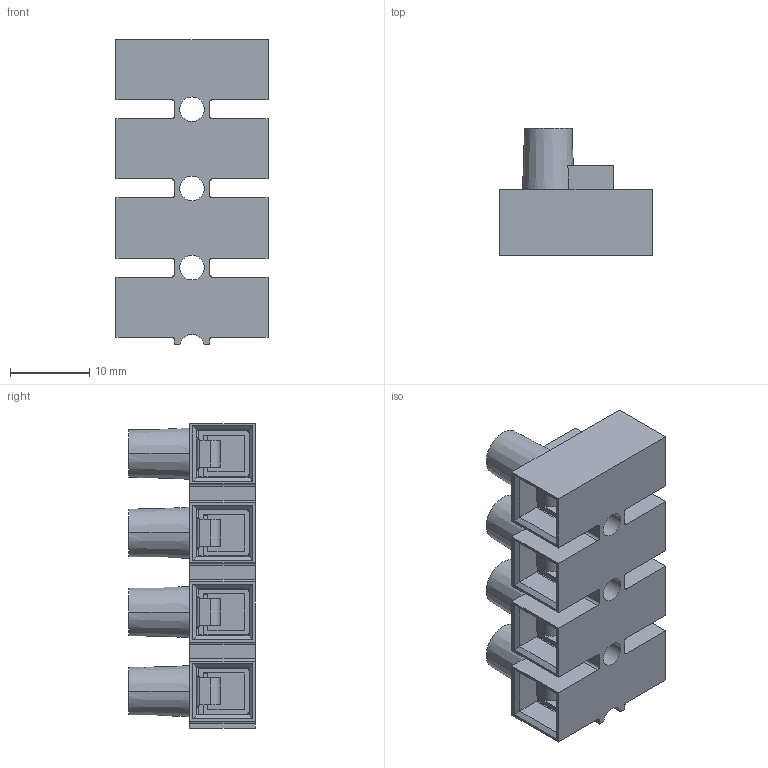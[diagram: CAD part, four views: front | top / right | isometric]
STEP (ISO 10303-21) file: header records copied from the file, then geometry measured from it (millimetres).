
FILE_DESCRIPTION (( 'STEP AP203' ), '1' );
FILE_NAME ('820-04.STEP', '2019-01-27T20:45:31', ( '' ), ( '' ), 'SwSTEP 2.0', 'SolidWorks 2016', '' );
FILE_SCHEMA (( 'CONFIG_CONTROL_DESIGN' ));
Length unit declared in the file: millimetre
Products named in the file (1): 820-04
Bounding box: 19.2 x 16 x 38.5 mm (x, y, z)
Volume: 4849 mm3; surface area: 5593.6 mm2
Topology: 1 solids, 1 shells, 456 faces, 1250 edges, 812 vertices
Faces by surface type: plane 259, cylinder 129, cone 52, torus 8, bspline 8
Entity records: 15173 total; most frequent: CARTESIAN_POINT 3471, ORIENTED_EDGE 2500, DIRECTION 2358, EDGE_CURVE 1250, VERTEX_POINT 812, AXIS2_PLACEMENT_3D 791, VECTOR 776, LINE 776
